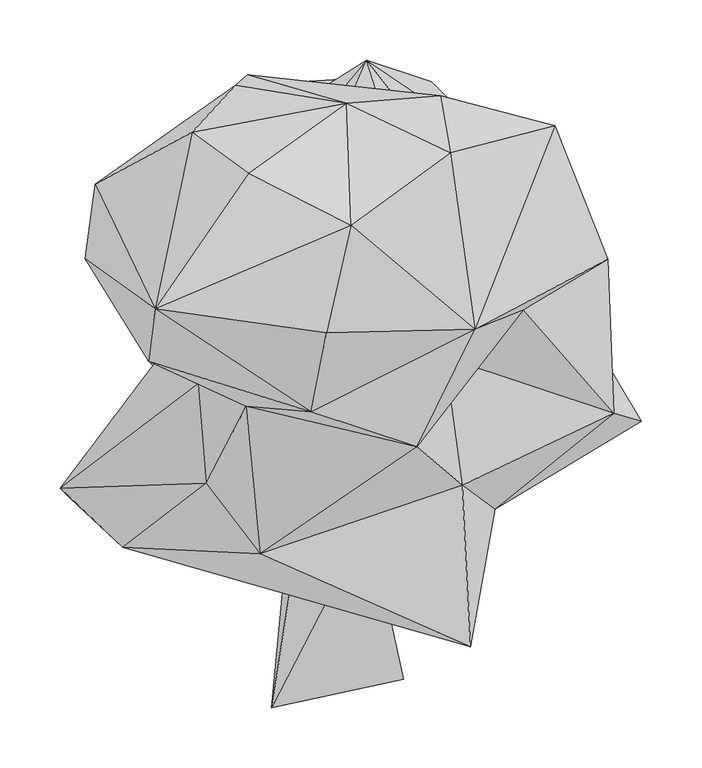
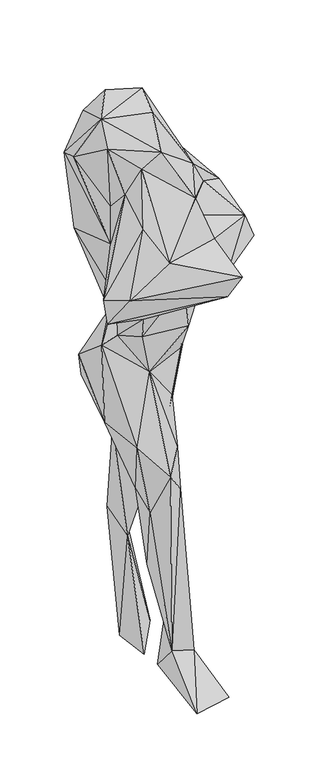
"""IFC4 building model written with IfcOpenShell, lengths in millimetres: geographic element geometry, Enscape AssetDefinition - Carolina de pie : Enscape AssetDefinition - Carolina de pie."""

from ifc_helpers import new_model, si_unit, origin, place, context, project, spatial, faceted_brep, source, transform, mapped, element, save


def geographic_element_a44fb911(model_context):
    return source(origin(), model_context, "Body", "Brep", [
        faceted_brep([(-83.9890018, -7.3480001, 506.896019), (-81.7880034, 12.4359997, 330.8430016), (-41.3720012, -47.8909984, 81.3210011), (-96.0469991, 47.2070016, 555.3770065), (-1.188, 57.5749986, 464.053005), (-24.5459992, 17.6660009, 154.6819955), (-127.1889955, -13.9990002, 729.2429805), (-45.5869995, -46.3760011, 628.7479997), (-61.7889985, 32.2429985, 919.171989), (26.9910004, 43.722, 645.6000209), (11.829, 1.207, 542.6859856), (-175.4589975, 70.0509995, 776.7149806), (-174.4229943, 87.4420032, 1008.5400343), (-170.1209992, 199.2119998, 847.9549885), (-84.4329968, 186.1840039, 660.277009), (-183.6439967, 188.6540055, 922.6279855), (-27.919, 261.3970041, 789.617002), (-95.5919996, 185.4380071, 1035.2549553), (9.5189996, 310.4139864, 948.5570192), (2.4669999, 280.1510096, 530.3320289), (63.3400008, 292.9919958, 805.3569794), (-38.4359993, 293.1990027, 328.6930025), (61.9090013, 232.0480049, 548.0009913), (9.5809996, 296.0300148, 318.4570074), (119.957, 235.7849926, 837.469995), (-25.2149999, 210.8419985, 280.6789875), (125.5760044, 145.5840021, 1004.9309731), (48.1959991, 133.0990046, 652.2250175), (35.7620008, 199.5539963, 0.0), (-66.1839992, 180.6980073, 0.0), (-54.1100018, 73.9789978, 0.0), (10.9519996, -70.367001, 79.1900009), (-46.3070013, 17.6660009, 0.0), (-69.3959966, -226.0839939, 0.0), (39.9420001, -202.6109993, 0.0), (73.0269998, 102.8399989, 906.175971), (27.005, 69.877997, 793.2360172), (40.0779992, 9.0119997, 1043.6010361), (131.6580027, 43.9070016, 1227.9030085), (102.2709981, 192.5069988, 1089.8580551), (162.7849936, 136.4029944, 1260.3729963), (237.4089956, 11.3129998, 1257.735014), (116.1200032, -61.9519986, 1226.5059948), (24.3020002, 3.0360001, 1185.3699684), (-88.5799974, 23.0780002, 1045.4009771), (-107.4969992, -15.7060008, 1130.7079792), (68.3960021, -145.2099979, 1218.6069489), (-135.0039989, 71.272999, 1036.4120007), (-236.5690023, -52.7850017, 1183.0480099), (-150.6190002, 80.2130029, 1325.2919912), (-99.6209979, 142.949, 1104.9879789), (95.5199972, -175.917998, 1288.2269621), (-192.7240044, -93.1240022, 1264.9159431), (-244.6729988, -44.5149988, 1256.2539577), (-123.7210035, -40.4120013, 1433.4410429), (-78.7350014, -98.650001, 1346.7839956), (88.8449997, -41.8200009, 1331.3040733), (214.5439982, 17.7650005, 1325.2710104), (51.1390008, -10.0530004, 1453.4440041), (74.4490027, 64.3960014, 1347.9819298), (-90.5190036, 23.7959996, 1574.3659735), (-130.1739961, 42.1550013, 1496.1400032), (-148.9090025, 84.8779976, 1439.8579597), (-171.3760048, 61.0809997, 1642.2439814), (-36.3919996, 19.1319995, 1610.84795), (-223.8540053, 145.7179934, 1586.2540007), (-165.8830047, 104.588002, 1709.1879845), (-215.8939987, 207.5040042, 1560.634017), (-182.0939928, 214.3130004, 1305.9350252), (-99.0379974, 289.7129953, 1517.950058), (-135.3480071, 250.714004, 1638.7889385), (-7.212, 274.699986, 1595.121026), (-89.4370005, 298.5720038, 1377.104044), (-88.2600024, 216.9030011, 1706.9200277), (70.8559975, 281.2609971, 1417.5429344), (78.9780021, 233.7989956, 1499.2809296), (-3.3519999, 173.6470014, 1708.9390755), (-23.9189994, 84.3790025, 1694.1800117), (99.4910002, 87.6199976, 1487.9319668), (165.7389998, 256.2730014, 1412.5410318), (59.2629984, 266.9810057, 1314.9009943), (209.5399946, 145.3180015, 1366.7370081), (-2.012, 278.1699896, 1157.2959423), (38.3949988, 219.0269977, 1083.6939812), (-31.7899995, 216.5520042, 1055.456996), (139.4979954, 103.565, 1408.0330133)], [[[0, 1, 2]], [[3, 1, 0]], [[4, 5, 1]], [[1, 5, 2]], [[3, 4, 1]], [[6, 0, 7]], [[7, 0, 2]], [[6, 3, 0]], [[8, 6, 7]], [[9, 7, 10]], [[9, 8, 7]], [[2, 10, 7]], [[11, 3, 6]], [[11, 6, 12]], [[12, 6, 8]], [[13, 14, 11]], [[13, 11, 15]], [[14, 3, 11]], [[15, 11, 12]], [[16, 14, 13]], [[15, 16, 13]], [[15, 12, 17]], [[18, 16, 15]], [[17, 18, 15]], [[19, 14, 16]], [[20, 16, 18]], [[16, 20, 19]], [[19, 21, 14]], [[19, 22, 23]], [[19, 23, 21]], [[19, 20, 22]], [[24, 22, 20]], [[18, 24, 20]], [[22, 25, 23]], [[22, 26, 27]], [[25, 22, 27]], [[22, 24, 26]], [[23, 25, 28]], [[29, 23, 28]], [[21, 23, 29]], [[28, 30, 29]], [[28, 25, 30]], [[25, 29, 30]], [[25, 21, 29]], [[21, 25, 14]], [[14, 25, 27]], [[3, 14, 27]], [[3, 27, 4]], [[4, 10, 5]], [[27, 10, 4]], [[10, 2, 31]], [[27, 9, 10]], [[10, 31, 5]], [[5, 32, 2]], [[31, 32, 5]], [[31, 2, 33]], [[2, 32, 33]], [[31, 33, 34]], [[34, 32, 31]], [[32, 34, 33]], [[35, 36, 27]], [[27, 36, 9]], [[27, 26, 35]], [[36, 8, 9]], [[35, 8, 36]], [[35, 37, 8]], [[38, 37, 35]], [[26, 38, 35]], [[24, 39, 26]], [[26, 40, 38]], [[39, 40, 26]], [[41, 42, 38]], [[38, 42, 43]], [[37, 38, 43]], [[38, 40, 41]], [[37, 44, 8]], [[37, 43, 44]], [[43, 45, 44]], [[43, 46, 45]], [[43, 42, 46]], [[47, 44, 45]], [[44, 47, 8]], [[45, 46, 48]], [[48, 49, 45]], [[50, 47, 45]], [[49, 50, 45]], [[51, 52, 46]], [[46, 52, 48]], [[42, 51, 46]], [[52, 53, 48]], [[49, 48, 53]], [[54, 52, 55]], [[54, 53, 52]], [[51, 55, 52]], [[56, 51, 42]], [[56, 55, 51]], [[56, 42, 57]], [[57, 42, 41]], [[58, 56, 59]], [[58, 55, 56]], [[57, 59, 56]], [[55, 60, 54]], [[58, 60, 55]], [[61, 53, 54]], [[60, 61, 54]], [[61, 49, 53]], [[62, 49, 61]], [[63, 61, 60]], [[61, 63, 62]], [[63, 60, 64]], [[64, 60, 58]], [[63, 65, 62]], [[66, 65, 63]], [[64, 66, 63]], [[65, 49, 62]], [[67, 68, 49]], [[68, 50, 49]], [[65, 67, 49]], [[66, 67, 65]], [[67, 69, 68]], [[70, 69, 67]], [[70, 67, 66]], [[70, 71, 69]], [[69, 71, 72]], [[68, 69, 72]], [[70, 66, 73]], [[71, 70, 73]], [[74, 71, 75]], [[72, 71, 74]], [[75, 71, 76]], [[71, 73, 76]], [[76, 73, 66]], [[76, 66, 77]], [[78, 76, 77]], [[75, 76, 78]], [[79, 75, 78]], [[74, 75, 79]], [[74, 80, 72]], [[80, 74, 79]], [[79, 40, 39]], [[79, 39, 80]], [[79, 81, 40]], [[79, 78, 81]], [[82, 80, 83]], [[72, 80, 82]], [[80, 39, 83]], [[39, 24, 18]], [[83, 39, 18]], [[84, 83, 18]], [[84, 82, 83]], [[84, 72, 82]], [[84, 68, 72]], [[84, 18, 17]], [[68, 84, 17]], [[68, 17, 50]], [[17, 12, 50]], [[50, 12, 47]], [[8, 47, 12]], [[81, 57, 40]], [[81, 78, 85]], [[81, 85, 57]], [[85, 59, 57]], [[40, 57, 41]], [[78, 58, 85]], [[85, 58, 59]], [[77, 64, 78]], [[78, 64, 58]], [[77, 66, 64]]]),
    ])


if __name__ == "__main__":
    model = new_model("IFC4")
    model_context = context("Model", 3, world=origin())
    ifc_project = project(units=[si_unit("LENGTHUNIT", "METRE", prefix="MILLI")], contexts=[model_context])
    site = spatial("IfcSite", under=ifc_project)
    building = spatial("IfcBuilding", under=site)
    placement = place(None, origin())
    geographic_element_shape = geographic_element_a44fb911(model_context)
    element("IfcGeographicElement", 1, ObjectType="Enscape AssetDefinition - Carolina de pie : Enscape AssetDefinition - Carolina de pie", at=placement, inside=building, context=model_context, shape_type="MappedRepresentation", body=[
        mapped(geographic_element_shape, transform((0.0, 0.0, 0.0), x_axis=(1.0, 0.0, 0.0), y_axis=(0.0, 1.0, 0.0), z_axis=(0.0, 0.0, 1.0))),
    ])
    save(model, "model.ifc")
